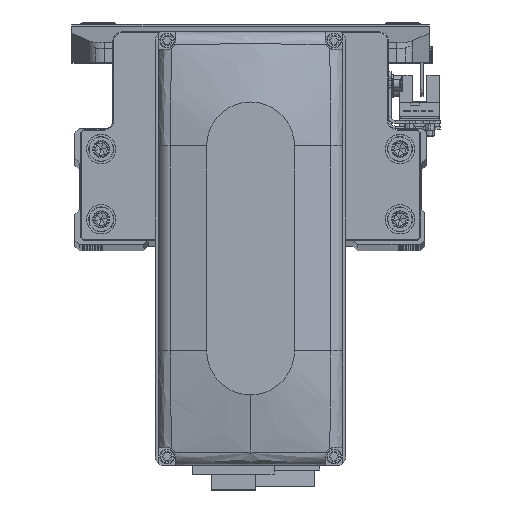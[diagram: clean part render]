
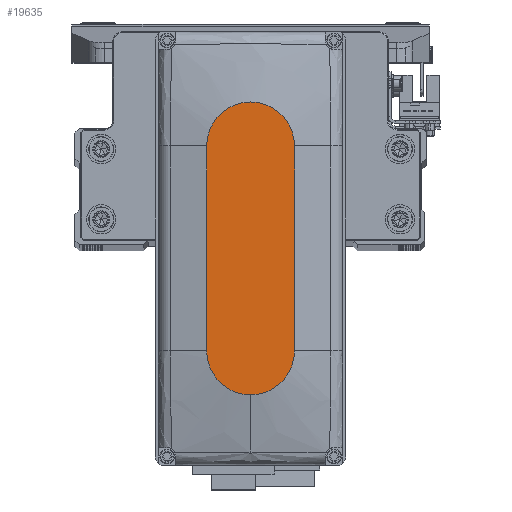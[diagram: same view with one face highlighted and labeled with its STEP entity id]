
A CAD part, top view. The second image highlights one B-rep face of the part: STEP entity #19635.
In plain terms, the highlighted planar face has unit normal (0, 0, 1).
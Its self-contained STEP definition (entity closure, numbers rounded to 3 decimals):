
#80 = LINE ( 'NONE', #15146, #39818 ) ;
#2439 = EDGE_CURVE ( 'NONE', #44132, #9594, #80, .T. ) ;
#2442 = LINE ( 'NONE', #17504, #19709 ) ;
#4307 = CARTESIAN_POINT ( 'NONE',  ( 0., 0., 35. ) ) ;
#5330 = EDGE_CURVE ( 'NONE', #14325, #28700, #2442, .T. ) ;
#6387 = ORIENTED_EDGE ( 'NONE', *, *, #29746, .T. ) ;
#6969 = CARTESIAN_POINT ( 'NONE',  ( 35., 0., 35. ) ) ;
#9594 = VERTEX_POINT ( 'NONE', #42820 ) ;
#11663 = ORIENTED_EDGE ( 'NONE', *, *, #24582, .T. ) ;
#12187 = CARTESIAN_POINT ( 'NONE',  ( -35., 0., 35. ) ) ;
#13681 = DIRECTION ( 'NONE',  ( 1., 0., 0. ) ) ;
#14111 = EDGE_CURVE ( 'NONE', #28700, #43623, #16157, .T. ) ;
#14207 = CARTESIAN_POINT ( 'NONE',  ( 50., 0., 35. ) ) ;
#14325 = VERTEX_POINT ( 'NONE', #15393 ) ;
#15146 = CARTESIAN_POINT ( 'NONE',  ( -35., 15., 35. ) ) ;
#15393 = CARTESIAN_POINT ( 'NONE',  ( -35., -15., 35. ) ) ;
#16157 = CIRCLE ( 'NONE', #43761, 15. ) ;
#17504 = CARTESIAN_POINT ( 'NONE',  ( -35., -15., 35. ) ) ;
#19281 = CARTESIAN_POINT ( 'NONE',  ( 35., 15., 35. ) ) ;
#19362 = DIRECTION ( 'NONE',  ( 0., 0., 1. ) ) ;
#19635 = ADVANCED_FACE ( 'NONE', ( #23053 ), #38118, .T. ) ;
#19709 = VECTOR ( 'NONE', #32575, 1000. ) ;
#20614 = CIRCLE ( 'NONE', #48208, 15. ) ;
#21335 = AXIS2_PLACEMENT_3D ( 'NONE', #12187, #27246, #42299 ) ;
#22010 = DIRECTION ( 'NONE',  ( 0., 0., 1. ) ) ;
#22356 = ORIENTED_EDGE ( 'NONE', *, *, #2439, .T. ) ;
#23053 = FACE_OUTER_BOUND ( 'NONE', #35213, .T. ) ;
#24582 = EDGE_CURVE ( 'NONE', #43623, #44132, #20614, .T. ) ;
#25901 = CARTESIAN_POINT ( 'NONE',  ( 35., -15., 35. ) ) ;
#27246 = DIRECTION ( 'NONE',  ( 0., 0., 1. ) ) ;
#28700 = VERTEX_POINT ( 'NONE', #25901 ) ;
#29746 = EDGE_CURVE ( 'NONE', #9594, #14325, #35662, .T. ) ;
#30213 = DIRECTION ( 'NONE',  ( -1., 0., 0. ) ) ;
#31929 = AXIS2_PLACEMENT_3D ( 'NONE', #4307, #19362, #34414 ) ;
#32439 = CARTESIAN_POINT ( 'NONE',  ( 35., 0., 35. ) ) ;
#32575 = DIRECTION ( 'NONE',  ( 1., 0., 0. ) ) ;
#34414 = DIRECTION ( 'NONE',  ( 1., 0., 0. ) ) ;
#35208 = ORIENTED_EDGE ( 'NONE', *, *, #5330, .T. ) ;
#35213 = EDGE_LOOP ( 'NONE', ( #22356, #6387, #35208, #35489, #11663 ) ) ;
#35489 = ORIENTED_EDGE ( 'NONE', *, *, #14111, .T. ) ;
#35662 = CIRCLE ( 'NONE', #21335, 15. ) ;
#37088 = DIRECTION ( 'NONE',  ( 1., 0., 0. ) ) ;
#38118 = PLANE ( 'NONE',  #31929 ) ;
#39818 = VECTOR ( 'NONE', #30213, 1000. ) ;
#42299 = DIRECTION ( 'NONE',  ( 1., 0., 0. ) ) ;
#42820 = CARTESIAN_POINT ( 'NONE',  ( -35., 15., 35. ) ) ;
#43623 = VERTEX_POINT ( 'NONE', #14207 ) ;
#43761 = AXIS2_PLACEMENT_3D ( 'NONE', #32439, #47491, #13681 ) ;
#44132 = VERTEX_POINT ( 'NONE', #19281 ) ;
#47491 = DIRECTION ( 'NONE',  ( 0., 0., 1. ) ) ;
#48208 = AXIS2_PLACEMENT_3D ( 'NONE', #6969, #22010, #37088 ) ;
